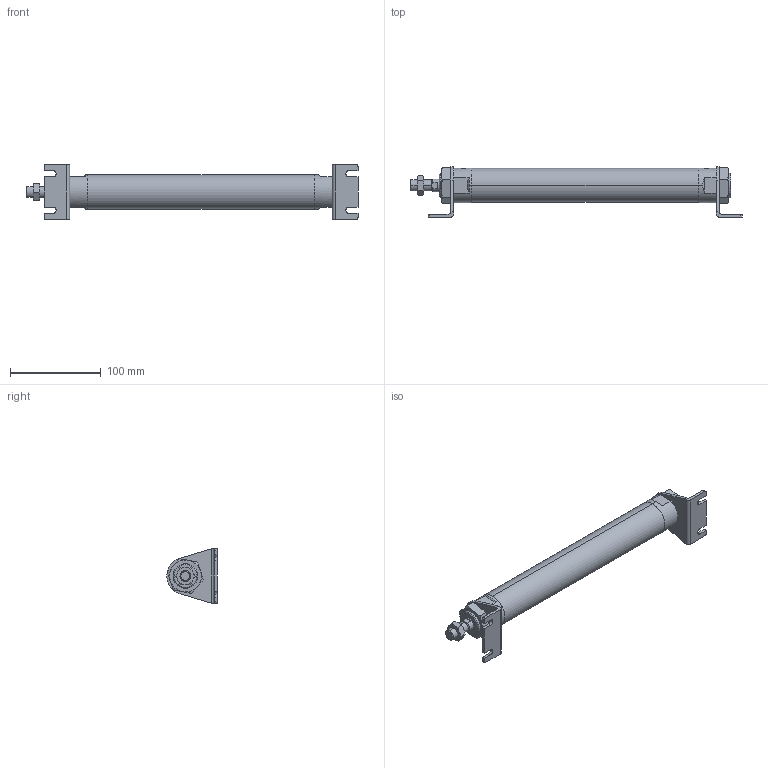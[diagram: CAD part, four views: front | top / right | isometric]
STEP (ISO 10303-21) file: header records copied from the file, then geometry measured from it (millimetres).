
FILE_DESCRIPTION (( 'STEP AP203' ), '1' );
FILE_NAME ('J#2-32-200-L.STEP', '2016-03-10T01:01:45', ( '' ), ( '' ), 'SwSTEP 2.0', 'SolidWorks 2014', '' );
FILE_SCHEMA (( 'CONFIG_CONTROL_DESIGN' ));
Length unit declared in the file: millimetre
Products named in the file (5): J#2-32-200; J#2-32-L; J#2-32-200-L
Assembly tree (6 placements, depth 2):
  J#2-32-200-L
    J#2-32-200
    (unnamed)
    (unnamed)  x2
    J#2-32-L  x2
Bounding box: 365.2 x 55.5 x 60 mm (x, y, z)
Volume: 373551.4 mm3; surface area: 63913.7 mm2
Topology: 6 solids, 6 shells, 170 faces, 404 edges, 249 vertices
Faces by surface type: plane 71, cylinder 48, torus 36, cone 15
Entity records: 4479 total; most frequent: CARTESIAN_POINT 1189, DIRECTION 578, ORIENTED_EDGE 558, EDGE_CURVE 279, AXIS2_PLACEMENT_3D 232, VERTEX_POINT 173, EDGE_LOOP 134, ADVANCED_FACE 121
